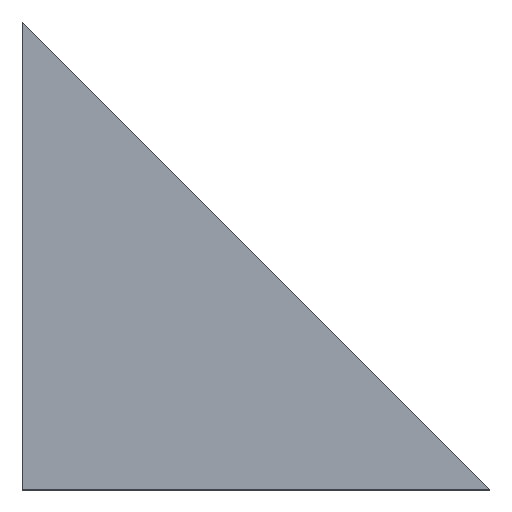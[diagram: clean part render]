
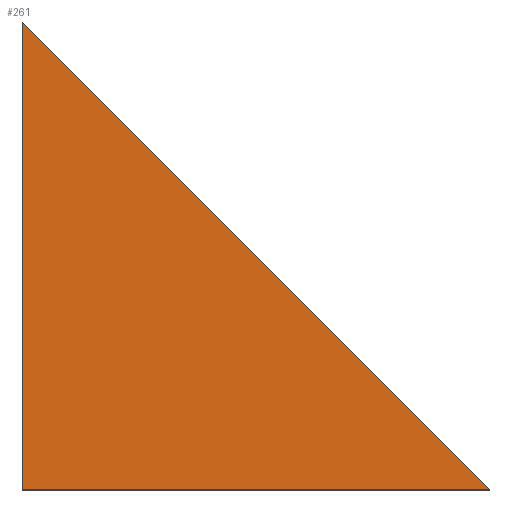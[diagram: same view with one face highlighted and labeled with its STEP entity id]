
A CAD part, top view. The second image highlights one B-rep face of the part: STEP entity #261.
In plain terms, the highlighted planar face has unit normal (0, 0, 1).
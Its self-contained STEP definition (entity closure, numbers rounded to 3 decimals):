
#24 = VERTEX_POINT('',#25);
#25 = CARTESIAN_POINT('',(0.,0.,12.));
#32 = PLANE('',#33);
#33 = AXIS2_PLACEMENT_3D('',#34,#35,#36);
#34 = CARTESIAN_POINT('',(0.,0.,0.));
#35 = DIRECTION('',(0.,1.,0.));
#36 = DIRECTION('',(1.,0.,0.));
#44 = PLANE('',#45);
#45 = AXIS2_PLACEMENT_3D('',#46,#47,#48);
#46 = CARTESIAN_POINT('',(0.,60.,0.));
#47 = DIRECTION('',(1.,0.,-0.));
#48 = DIRECTION('',(0.,-1.,0.));
#56 = EDGE_CURVE('',#24,#57,#59,.T.);
#57 = VERTEX_POINT('',#58);
#58 = CARTESIAN_POINT('',(60.,0.,12.));
#59 = SURFACE_CURVE('',#60,(#64,#71),.PCURVE_S1.);
#60 = LINE('',#61,#62);
#61 = CARTESIAN_POINT('',(0.,0.,12.));
#62 = VECTOR('',#63,1.);
#63 = DIRECTION('',(1.,0.,0.));
#64 = PCURVE('',#32,#65);
#65 = DEFINITIONAL_REPRESENTATION('',(#66),#70);
#66 = LINE('',#67,#68);
#67 = CARTESIAN_POINT('',(0.,-12.));
#68 = VECTOR('',#69,1.);
#69 = DIRECTION('',(1.,0.));
#70 = ( GEOMETRIC_REPRESENTATION_CONTEXT(2) 
PARAMETRIC_REPRESENTATION_CONTEXT() REPRESENTATION_CONTEXT('2D SPACE',''
  ) );
#71 = PCURVE('',#72,#77);
#72 = PLANE('',#73);
#73 = AXIS2_PLACEMENT_3D('',#74,#75,#76);
#74 = CARTESIAN_POINT('',(21.213,21.213,12.));
#75 = DIRECTION('',(0.,0.,1.));
#76 = DIRECTION('',(1.,0.,-0.));
#77 = DEFINITIONAL_REPRESENTATION('',(#78),#82);
#78 = LINE('',#79,#80);
#79 = CARTESIAN_POINT('',(-21.213,-21.213));
#80 = VECTOR('',#81,1.);
#81 = DIRECTION('',(1.,0.));
#82 = ( GEOMETRIC_REPRESENTATION_CONTEXT(2) 
PARAMETRIC_REPRESENTATION_CONTEXT() REPRESENTATION_CONTEXT('2D SPACE',''
  ) );
#100 = PLANE('',#101);
#101 = AXIS2_PLACEMENT_3D('',#102,#103,#104);
#102 = CARTESIAN_POINT('',(60.,0.,0.));
#103 = DIRECTION('',(-0.707,-0.707,0.));
#104 = DIRECTION('',(-0.707,0.707,0.));
#142 = EDGE_CURVE('',#57,#143,#145,.T.);
#143 = VERTEX_POINT('',#144);
#144 = CARTESIAN_POINT('',(0.,60.,12.));
#145 = SURFACE_CURVE('',#146,(#150,#157),.PCURVE_S1.);
#146 = LINE('',#147,#148);
#147 = CARTESIAN_POINT('',(60.,0.,12.));
#148 = VECTOR('',#149,1.);
#149 = DIRECTION('',(-0.707,0.707,0.));
#150 = PCURVE('',#100,#151);
#151 = DEFINITIONAL_REPRESENTATION('',(#152),#156);
#152 = LINE('',#153,#154);
#153 = CARTESIAN_POINT('',(0.,-12.));
#154 = VECTOR('',#155,1.);
#155 = DIRECTION('',(1.,0.));
#156 = ( GEOMETRIC_REPRESENTATION_CONTEXT(2) 
PARAMETRIC_REPRESENTATION_CONTEXT() REPRESENTATION_CONTEXT('2D SPACE',''
  ) );
#157 = PCURVE('',#72,#158);
#158 = DEFINITIONAL_REPRESENTATION('',(#159),#163);
#159 = LINE('',#160,#161);
#160 = CARTESIAN_POINT('',(38.787,-21.213));
#161 = VECTOR('',#162,1.);
#162 = DIRECTION('',(-0.707,0.707));
#163 = ( GEOMETRIC_REPRESENTATION_CONTEXT(2) 
PARAMETRIC_REPRESENTATION_CONTEXT() REPRESENTATION_CONTEXT('2D SPACE',''
  ) );
#213 = EDGE_CURVE('',#143,#24,#214,.T.);
#214 = SURFACE_CURVE('',#215,(#219,#226),.PCURVE_S1.);
#215 = LINE('',#216,#217);
#216 = CARTESIAN_POINT('',(0.,60.,12.));
#217 = VECTOR('',#218,1.);
#218 = DIRECTION('',(0.,-1.,0.));
#219 = PCURVE('',#44,#220);
#220 = DEFINITIONAL_REPRESENTATION('',(#221),#225);
#221 = LINE('',#222,#223);
#222 = CARTESIAN_POINT('',(0.,-12.));
#223 = VECTOR('',#224,1.);
#224 = DIRECTION('',(1.,0.));
#225 = ( GEOMETRIC_REPRESENTATION_CONTEXT(2) 
PARAMETRIC_REPRESENTATION_CONTEXT() REPRESENTATION_CONTEXT('2D SPACE',''
  ) );
#226 = PCURVE('',#72,#227);
#227 = DEFINITIONAL_REPRESENTATION('',(#228),#232);
#228 = LINE('',#229,#230);
#229 = CARTESIAN_POINT('',(-21.213,38.787));
#230 = VECTOR('',#231,1.);
#231 = DIRECTION('',(0.,-1.));
#232 = ( GEOMETRIC_REPRESENTATION_CONTEXT(2) 
PARAMETRIC_REPRESENTATION_CONTEXT() REPRESENTATION_CONTEXT('2D SPACE',''
  ) );
#261 = ADVANCED_FACE('',(#262),#72,.T.);
#262 = FACE_BOUND('',#263,.T.);
#263 = EDGE_LOOP('',(#264,#265,#266));
#264 = ORIENTED_EDGE('',*,*,#56,.T.);
#265 = ORIENTED_EDGE('',*,*,#142,.T.);
#266 = ORIENTED_EDGE('',*,*,#213,.T.);
